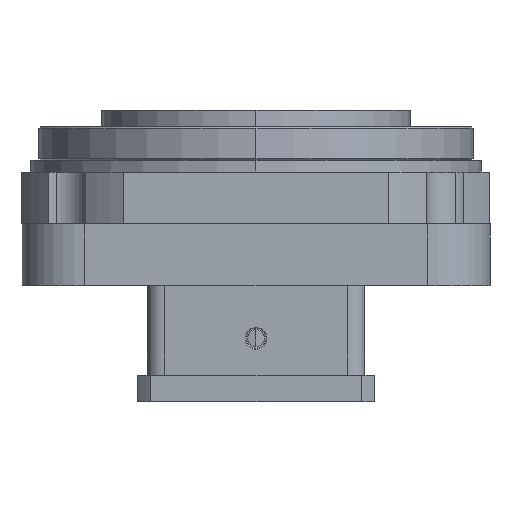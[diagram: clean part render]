
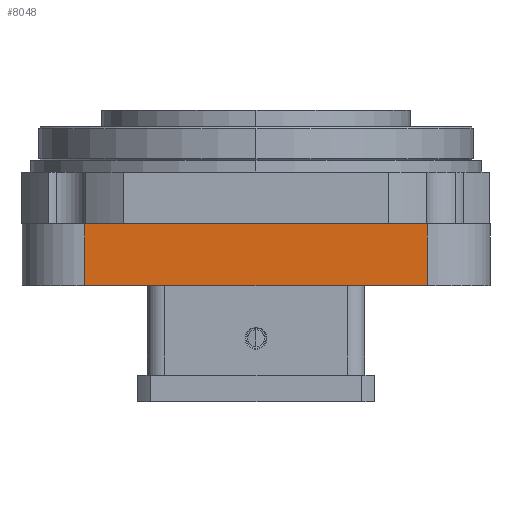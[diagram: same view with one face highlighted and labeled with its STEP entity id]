
A CAD part, left-side view. The second image highlights one B-rep face of the part: STEP entity #8048.
In plain terms, the highlighted planar face has unit normal (-1, 0, 0).
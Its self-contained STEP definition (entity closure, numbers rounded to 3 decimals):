
#1207 = FACE_OUTER_BOUND ( 'NONE', #75674, .T. ) ;
#8048 = ADVANCED_FACE ( 'NONE', ( #1207 ), #22455, .F. ) ;
#11926 = VERTEX_POINT ( 'NONE', #39648 ) ;
#11945 = VERTEX_POINT ( 'NONE', #39751 ) ;
#11984 = VERTEX_POINT ( 'NONE', #39861 ) ;
#12041 = VERTEX_POINT ( 'NONE', #40186 ) ;
#22409 = DIRECTION ( 'NONE',  ( 1., 0., 0. ) ) ;
#22443 = CARTESIAN_POINT ( 'NONE',  ( -140., -140., -85. ) ) ;
#22452 = DIRECTION ( 'NONE',  ( 0., 1., 0. ) ) ;
#22455 = PLANE ( 'NONE',  #55319 ) ;
#39648 = CARTESIAN_POINT ( 'NONE',  ( -140., -102.5, -48. ) ) ;
#39751 = CARTESIAN_POINT ( 'NONE',  ( -140., 102.5, -48. ) ) ;
#39861 = CARTESIAN_POINT ( 'NONE',  ( -140., -102.5, -85. ) ) ;
#40186 = CARTESIAN_POINT ( 'NONE',  ( -140., 102.5, -85. ) ) ;
#42113 = ORIENTED_EDGE ( 'NONE', *, *, #54543, .F. ) ;
#42114 = ORIENTED_EDGE ( 'NONE', *, *, #54624, .F. ) ;
#42125 = ORIENTED_EDGE ( 'NONE', *, *, #54656, .F. ) ;
#42127 = ORIENTED_EDGE ( 'NONE', *, *, #54546, .F. ) ;
#54543 = EDGE_CURVE ( 'NONE', #12041, #11945, #87451, .T. ) ;
#54546 = EDGE_CURVE ( 'NONE', #11984, #12041, #87465, .T. ) ;
#54624 = EDGE_CURVE ( 'NONE', #11945, #11926, #87523, .T. ) ;
#54656 = EDGE_CURVE ( 'NONE', #11926, #11984, #87519, .T. ) ;
#55319 = AXIS2_PLACEMENT_3D ( 'NONE', #22443, #22409, #22452 ) ;
#75674 = EDGE_LOOP ( 'NONE', ( #42125, #42114, #42113, #42127 ) ) ;
#87436 = VECTOR ( 'NONE', #91012, 1000. ) ;
#87451 = LINE ( 'NONE', #90955, #87468 ) ;
#87465 = LINE ( 'NONE', #90957, #87436 ) ;
#87468 = VECTOR ( 'NONE', #90936, 1000. ) ;
#87485 = VECTOR ( 'NONE', #91397, 1000. ) ;
#87519 = LINE ( 'NONE', #91626, #87532 ) ;
#87523 = LINE ( 'NONE', #91379, #87485 ) ;
#87532 = VECTOR ( 'NONE', #91637, 1000. ) ;
#90936 = DIRECTION ( 'NONE',  ( 0., 0., 1. ) ) ;
#90955 = CARTESIAN_POINT ( 'NONE',  ( -140., 102.5, -85. ) ) ;
#90957 = CARTESIAN_POINT ( 'NONE',  ( -140., -140., -85. ) ) ;
#91012 = DIRECTION ( 'NONE',  ( 0., 1., 0. ) ) ;
#91379 = CARTESIAN_POINT ( 'NONE',  ( -140., -140., -48. ) ) ;
#91397 = DIRECTION ( 'NONE',  ( 0., -1., 0. ) ) ;
#91626 = CARTESIAN_POINT ( 'NONE',  ( -140., -102.5, -85. ) ) ;
#91637 = DIRECTION ( 'NONE',  ( 0., 0., -1. ) ) ;
